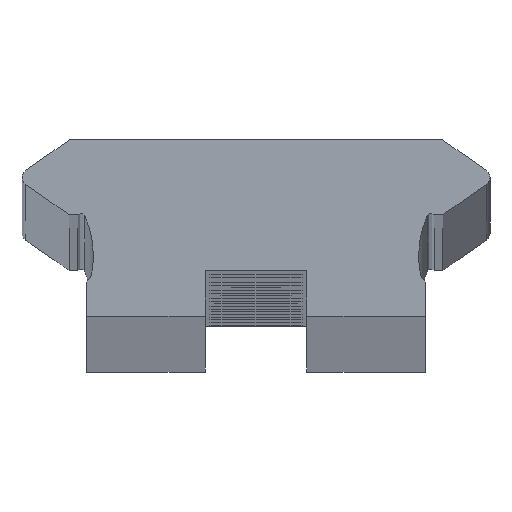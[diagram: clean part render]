
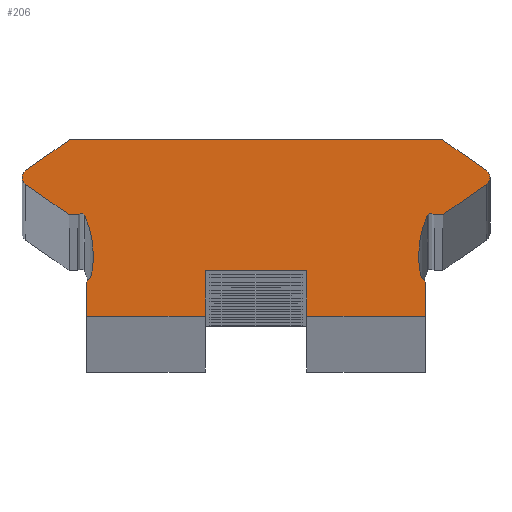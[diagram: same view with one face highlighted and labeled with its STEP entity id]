
A CAD part, top view. The second image highlights one B-rep face of the part: STEP entity #206.
In plain terms, the highlighted planar face has unit normal (0, 0, 1).
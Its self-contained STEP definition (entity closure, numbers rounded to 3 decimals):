
#206=ADVANCED_FACE('',(#534),#535,.T.);
#534=FACE_OUTER_BOUND('',#863,.T.);
#535=PLANE('',#864);
#863=EDGE_LOOP('',(#1868,#1869,#1870,#1871,#1872,#1873,#1874,#1875,#1876,#1877,#1878,#1879,#1880,#1881,#1882,#1883,#1884,#1885,#1886,#1887,#1888,#1889,#1890,#1891,#1892,#1893));
#864=AXIS2_PLACEMENT_3D('',#1894,#1895,#1896);
#1868=ORIENTED_EDGE('',*,*,#2194,.F.);
#1869=ORIENTED_EDGE('',*,*,#2254,.F.);
#1870=ORIENTED_EDGE('',*,*,#2251,.F.);
#1871=ORIENTED_EDGE('',*,*,#1927,.F.);
#1872=ORIENTED_EDGE('',*,*,#2250,.F.);
#1873=ORIENTED_EDGE('',*,*,#2246,.F.);
#1874=ORIENTED_EDGE('',*,*,#2243,.F.);
#1875=ORIENTED_EDGE('',*,*,#2240,.F.);
#1876=ORIENTED_EDGE('',*,*,#2237,.F.);
#1877=ORIENTED_EDGE('',*,*,#1933,.F.);
#1878=ORIENTED_EDGE('',*,*,#2235,.F.);
#1879=ORIENTED_EDGE('',*,*,#2232,.F.);
#1880=ORIENTED_EDGE('',*,*,#2229,.F.);
#1881=ORIENTED_EDGE('',*,*,#1935,.F.);
#1882=ORIENTED_EDGE('',*,*,#2228,.F.);
#1883=ORIENTED_EDGE('',*,*,#2224,.F.);
#1884=ORIENTED_EDGE('',*,*,#2221,.F.);
#1885=ORIENTED_EDGE('',*,*,#2218,.F.);
#1886=ORIENTED_EDGE('',*,*,#2215,.F.);
#1887=ORIENTED_EDGE('',*,*,#1941,.F.);
#1888=ORIENTED_EDGE('',*,*,#2213,.F.);
#1889=ORIENTED_EDGE('',*,*,#2210,.F.);
#1890=ORIENTED_EDGE('',*,*,#2207,.F.);
#1891=ORIENTED_EDGE('',*,*,#2204,.F.);
#1892=ORIENTED_EDGE('',*,*,#2201,.F.);
#1893=ORIENTED_EDGE('',*,*,#2198,.F.);
#1894=CARTESIAN_POINT('',(0.,5.519,1886.0));
#1895=DIRECTION('',(0.0,0.0,1.0));
#1896=DIRECTION('',(1.0,0.0,0.0));
#1927=EDGE_CURVE('',#2256,#2259,#2260,.T.);
#1933=EDGE_CURVE('',#2269,#2265,#2271,.T.);
#1935=EDGE_CURVE('',#2272,#2275,#2276,.T.);
#1941=EDGE_CURVE('',#2285,#2281,#2287,.T.);
#2194=EDGE_CURVE('',#2708,#2709,#2710,.T.);
#2198=EDGE_CURVE('',#2709,#2716,#2717,.T.);
#2201=EDGE_CURVE('',#2716,#2721,#2722,.T.);
#2204=EDGE_CURVE('',#2721,#2726,#2727,.T.);
#2207=EDGE_CURVE('',#2726,#2731,#2732,.T.);
#2210=EDGE_CURVE('',#2731,#2736,#2737,.T.);
#2213=EDGE_CURVE('',#2736,#2285,#2741,.T.);
#2215=EDGE_CURVE('',#2281,#2743,#2744,.T.);
#2218=EDGE_CURVE('',#2743,#2748,#2749,.T.);
#2221=EDGE_CURVE('',#2748,#2753,#2754,.T.);
#2224=EDGE_CURVE('',#2753,#2758,#2759,.T.);
#2228=EDGE_CURVE('',#2758,#2272,#2764,.T.);
#2229=EDGE_CURVE('',#2275,#2765,#2766,.T.);
#2232=EDGE_CURVE('',#2765,#2770,#2771,.T.);
#2235=EDGE_CURVE('',#2770,#2269,#2775,.T.);
#2237=EDGE_CURVE('',#2265,#2777,#2778,.T.);
#2240=EDGE_CURVE('',#2777,#2782,#2783,.T.);
#2243=EDGE_CURVE('',#2782,#2787,#2788,.T.);
#2246=EDGE_CURVE('',#2787,#2792,#2793,.T.);
#2250=EDGE_CURVE('',#2792,#2256,#2798,.T.);
#2251=EDGE_CURVE('',#2259,#2799,#2800,.T.);
#2254=EDGE_CURVE('',#2799,#2708,#2804,.T.);
#2256=VERTEX_POINT('',#2806);
#2259=VERTEX_POINT('',#2810);
#2260=CIRCLE('',#2811,5.653);
#2265=VERTEX_POINT('',#2817);
#2269=VERTEX_POINT('',#2822);
#2271=CIRCLE('',#2825,0.5);
#2272=VERTEX_POINT('',#2826);
#2275=VERTEX_POINT('',#2830);
#2276=CIRCLE('',#2831,0.5);
#2281=VERTEX_POINT('',#2837);
#2285=VERTEX_POINT('',#2842);
#2287=CIRCLE('',#2845,5.653);
#2708=VERTEX_POINT('',#3350);
#2709=VERTEX_POINT('',#3351);
#2710=LINE('',#3352,#3353);
#2716=VERTEX_POINT('',#3362);
#2717=LINE('',#3363,#3364);
#2721=VERTEX_POINT('',#3370);
#2722=LINE('',#3371,#3372);
#2726=VERTEX_POINT('',#3378);
#2727=LINE('',#3379,#3380);
#2731=VERTEX_POINT('',#3386);
#2732=LINE('',#3387,#3388);
#2736=VERTEX_POINT('',#3394);
#2737=LINE('',#3395,#3396);
#2741=CIRCLE('',#3402,0.886);
#2743=VERTEX_POINT('',#3404);
#2744=CIRCLE('',#3405,5.653);
#2748=VERTEX_POINT('',#3410);
#2749=CIRCLE('',#3411,0.253);
#2753=VERTEX_POINT('',#3416);
#2754=LINE('',#3417,#3418);
#2758=VERTEX_POINT('',#3424);
#2759=LINE('',#3425,#3426);
#2764=CIRCLE('',#3433,0.5);
#2765=VERTEX_POINT('',#3434);
#2766=LINE('',#3435,#3436);
#2770=VERTEX_POINT('',#3442);
#2771=LINE('',#3443,#3444);
#2775=LINE('',#3450,#3451);
#2777=VERTEX_POINT('',#3454);
#2778=CIRCLE('',#3455,0.5);
#2782=VERTEX_POINT('',#3460);
#2783=LINE('',#3461,#3462);
#2787=VERTEX_POINT('',#3468);
#2788=LINE('',#3469,#3470);
#2792=VERTEX_POINT('',#3476);
#2793=CIRCLE('',#3477,0.253);
#2798=CIRCLE('',#3483,5.653);
#2799=VERTEX_POINT('',#3484);
#2800=CIRCLE('',#3485,0.886);
#2804=LINE('',#3490,#3491);
#2806=CARTESIAN_POINT('',(9.6,3.598,1886.0));
#2810=CARTESIAN_POINT('',(9.701,2.535,1886.0));
#2811=AXIS2_PLACEMENT_3D('',#3495,#3496,#3497);
#2817=CARTESIAN_POINT('',(13.813,8.2,1886.0));
#2822=CARTESIAN_POINT('',(13.6,8.61,1886.0));
#2825=AXIS2_PLACEMENT_3D('',#3507,#3508,#3509);
#2826=CARTESIAN_POINT('',(-13.813,8.2,1886.0));
#2830=CARTESIAN_POINT('',(-13.6,8.61,1886.0));
#2831=AXIS2_PLACEMENT_3D('',#3511,#3512,#3513);
#2837=CARTESIAN_POINT('',(-9.6,3.598,1886.0));
#2842=CARTESIAN_POINT('',(-9.701,2.535,1886.0));
#2845=AXIS2_PLACEMENT_3D('',#3523,#3524,#3525);
#3350=CARTESIAN_POINT('',(10.0,0.0,1886.0));
#3351=CARTESIAN_POINT('',(3.0,0.0,1886.0));
#3352=CARTESIAN_POINT('',(3.0,0.0,1886.0));
#3353=VECTOR('',#4114,1.0);
#3362=CARTESIAN_POINT('',(3.0,2.7,1886.0));
#3363=CARTESIAN_POINT('',(3.0,2.7,1886.0));
#3364=VECTOR('',#4118,1.0);
#3370=CARTESIAN_POINT('',(-3.0,2.7,1886.0));
#3371=CARTESIAN_POINT('',(-3.0,2.7,1886.0));
#3372=VECTOR('',#4121,1.0);
#3378=CARTESIAN_POINT('',(-3.0,0.0,1886.0));
#3379=CARTESIAN_POINT('',(-3.0,0.0,1886.0));
#3380=VECTOR('',#4124,1.0);
#3386=CARTESIAN_POINT('',(-10.0,0.0,1886.0));
#3387=CARTESIAN_POINT('',(-10.0,0.0,1886.0));
#3388=VECTOR('',#4127,1.0);
#3394=CARTESIAN_POINT('',(-10.,2.009,1886.0));
#3395=CARTESIAN_POINT('',(-10.0,2.009,1886.0));
#3396=VECTOR('',#4130,1.0);
#3402=AXIS2_PLACEMENT_3D('',#4133,#4134,#4135);
#3404=CARTESIAN_POINT('',(-10.108,5.941,1886.0));
#3405=AXIS2_PLACEMENT_3D('',#4139,#4140,#4141);
#3410=CARTESIAN_POINT('',(-10.525,5.99,1886.0));
#3411=AXIS2_PLACEMENT_3D('',#4146,#4147,#4148);
#3416=CARTESIAN_POINT('',(-11.029,5.99,1886.0));
#3417=CARTESIAN_POINT('',(-11.029,5.99,1886.0));
#3418=VECTOR('',#4153,1.0);
#3424=CARTESIAN_POINT('',(-13.6,7.79,1886.0));
#3425=CARTESIAN_POINT('',(-13.6,7.79,1886.0));
#3426=VECTOR('',#4156,1.0);
#3433=AXIS2_PLACEMENT_3D('',#4162,#4163,#4164);
#3434=CARTESIAN_POINT('',(-11.029,10.41,1886.0));
#3435=CARTESIAN_POINT('',(-11.029,10.41,1886.0));
#3436=VECTOR('',#4165,1.0);
#3442=CARTESIAN_POINT('',(11.029,10.41,1886.0));
#3443=CARTESIAN_POINT('',(11.029,10.41,1886.0));
#3444=VECTOR('',#4168,1.0);
#3450=CARTESIAN_POINT('',(13.6,8.61,1886.0));
#3451=VECTOR('',#4171,1.0);
#3454=CARTESIAN_POINT('',(13.6,7.79,1886.0));
#3455=AXIS2_PLACEMENT_3D('',#4173,#4174,#4175);
#3460=CARTESIAN_POINT('',(11.029,5.99,1886.0));
#3461=CARTESIAN_POINT('',(11.029,5.99,1886.0));
#3462=VECTOR('',#4180,1.0);
#3468=CARTESIAN_POINT('',(10.525,5.99,1886.0));
#3469=CARTESIAN_POINT('',(10.525,5.99,1886.0));
#3470=VECTOR('',#4183,1.0);
#3476=CARTESIAN_POINT('',(10.108,5.941,1886.0));
#3477=AXIS2_PLACEMENT_3D('',#4186,#4187,#4188);
#3483=AXIS2_PLACEMENT_3D('',#4196,#4197,#4198);
#3484=CARTESIAN_POINT('',(10.0,2.009,1886.0));
#3485=AXIS2_PLACEMENT_3D('',#4199,#4200,#4201);
#3490=CARTESIAN_POINT('',(10.0,0.0,1886.0));
#3491=VECTOR('',#4206,1.0);
#3495=CARTESIAN_POINT('',(15.254,3.598,1886.0));
#3496=DIRECTION('',(0.0,0.0,1.0));
#3497=DIRECTION('',(1.0,0.0,0.0));
#3507=CARTESIAN_POINT('',(13.313,8.2,1886.0));
#3508=DIRECTION('',(0.0,0.0,-1.0));
#3509=DIRECTION('',(1.0,0.0,0.0));
#3511=CARTESIAN_POINT('',(-13.313,8.2,1886.0));
#3512=DIRECTION('',(0.0,0.0,-1.0));
#3513=DIRECTION('',(1.0,0.0,0.0));
#3523=CARTESIAN_POINT('',(-15.254,3.598,1886.0));
#3524=DIRECTION('',(0.0,0.0,1.0));
#3525=DIRECTION('',(1.0,0.0,0.0));
#4114=DIRECTION('',(-1.0,-0.0,-0.0));
#4118=DIRECTION('',(0.0,1.0,0.0));
#4121=DIRECTION('',(-1.0,-0.0,-0.0));
#4124=DIRECTION('',(-0.0,-1.0,-0.0));
#4127=DIRECTION('',(-1.0,-0.0,-0.0));
#4130=DIRECTION('',(0.0,1.0,0.0));
#4133=CARTESIAN_POINT('',(-10.574,2.683,1886.0));
#4134=DIRECTION('',(0.0,0.0,1.0));
#4135=DIRECTION('',(1.0,0.0,0.0));
#4139=CARTESIAN_POINT('',(-15.254,3.598,1886.0));
#4140=DIRECTION('',(0.0,0.0,1.0));
#4141=DIRECTION('',(1.0,0.0,0.0));
#4146=CARTESIAN_POINT('',(-10.333,5.826,1886.0));
#4147=DIRECTION('',(0.0,0.0,1.0));
#4148=DIRECTION('',(1.0,0.0,0.0));
#4153=DIRECTION('',(-1.0,-0.0,-0.0));
#4156=DIRECTION('',(-0.819,0.574,0.0));
#4162=CARTESIAN_POINT('',(-13.313,8.2,1886.0));
#4163=DIRECTION('',(0.0,0.0,-1.0));
#4164=DIRECTION('',(1.0,0.0,0.0));
#4165=DIRECTION('',(0.819,0.574,0.0));
#4168=DIRECTION('',(1.0,0.0,0.0));
#4171=DIRECTION('',(0.819,-0.574,0.0));
#4173=CARTESIAN_POINT('',(13.313,8.2,1886.0));
#4174=DIRECTION('',(0.0,0.0,-1.0));
#4175=DIRECTION('',(1.0,0.0,0.0));
#4180=DIRECTION('',(-0.819,-0.574,-0.0));
#4183=DIRECTION('',(-1.0,-0.0,-0.0));
#4186=CARTESIAN_POINT('',(10.333,5.826,1886.0));
#4187=DIRECTION('',(0.0,0.0,1.0));
#4188=DIRECTION('',(1.0,0.0,0.0));
#4196=CARTESIAN_POINT('',(15.254,3.598,1886.0));
#4197=DIRECTION('',(0.0,0.0,1.0));
#4198=DIRECTION('',(1.0,0.0,0.0));
#4199=CARTESIAN_POINT('',(10.574,2.683,1886.0));
#4200=DIRECTION('',(0.0,0.0,1.0));
#4201=DIRECTION('',(1.0,0.0,0.0));
#4206=DIRECTION('',(-0.0,-1.0,-0.0));
